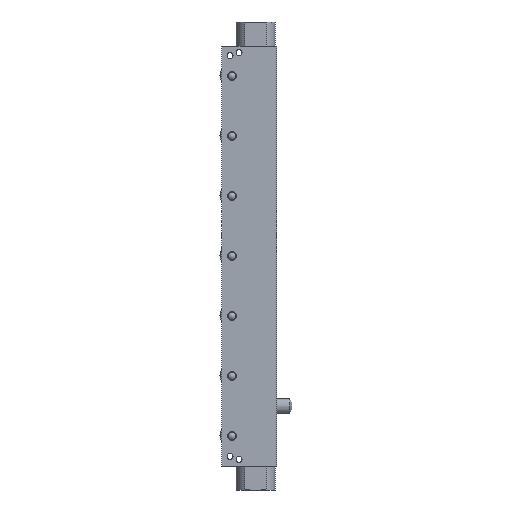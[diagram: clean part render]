
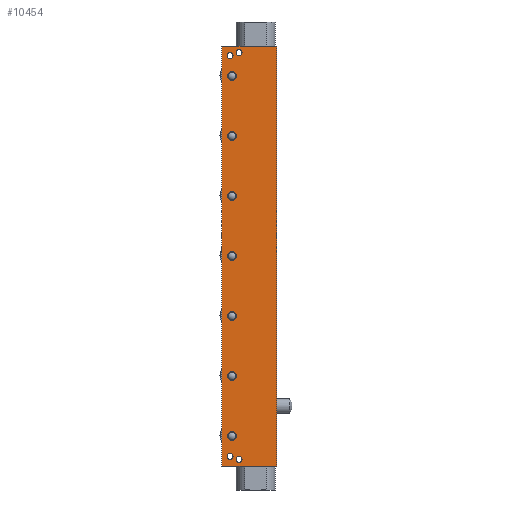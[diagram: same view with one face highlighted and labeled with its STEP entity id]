
A CAD part, left-side view. The second image highlights one B-rep face of the part: STEP entity #10454.
In plain terms, the highlighted planar face has unit normal (-1, 0, 0).
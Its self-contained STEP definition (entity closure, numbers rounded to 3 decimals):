
#245=FACE_BOUND('',#1443,.T.);
#246=FACE_BOUND('',#1444,.T.);
#247=FACE_BOUND('',#1445,.T.);
#248=FACE_BOUND('',#1446,.T.);
#249=FACE_BOUND('',#1447,.T.);
#250=FACE_BOUND('',#1448,.T.);
#251=FACE_BOUND('',#1449,.T.);
#252=FACE_BOUND('',#1450,.T.);
#253=FACE_BOUND('',#1451,.T.);
#254=FACE_BOUND('',#1452,.T.);
#255=FACE_BOUND('',#1453,.T.);
#563=PLANE('',#11426);
#872=FACE_OUTER_BOUND('',#1442,.T.);
#1442=EDGE_LOOP('',(#7556,#7557,#7558,#7559));
#1443=EDGE_LOOP('',(#7560));
#1444=EDGE_LOOP('',(#7561));
#1445=EDGE_LOOP('',(#7562));
#1446=EDGE_LOOP('',(#7563,#7564));
#1447=EDGE_LOOP('',(#7565,#7566));
#1448=EDGE_LOOP('',(#7567,#7568));
#1449=EDGE_LOOP('',(#7569,#7570));
#1450=EDGE_LOOP('',(#7571));
#1451=EDGE_LOOP('',(#7572));
#1452=EDGE_LOOP('',(#7573));
#1453=EDGE_LOOP('',(#7574));
#1992=LINE('',#16982,#2431);
#2003=LINE('',#17011,#2442);
#2073=LINE('',#18073,#2512);
#2074=LINE('',#18074,#2513);
#2431=VECTOR('',#13223,10.);
#2442=VECTOR('',#13242,10.);
#2512=VECTOR('',#13672,10.);
#2513=VECTOR('',#13673,10.);
#3187=CIRCLE('',#11423,3.);
#3190=CIRCLE('',#11427,3.);
#3191=CIRCLE('',#11428,3.);
#3192=CIRCLE('',#11429,3.);
#3193=CIRCLE('',#11430,2.);
#3194=CIRCLE('',#11431,2.);
#3195=CIRCLE('',#11432,2.);
#3196=CIRCLE('',#11433,2.);
#3197=CIRCLE('',#11434,2.);
#3198=CIRCLE('',#11435,2.);
#3199=CIRCLE('',#11436,2.);
#3200=CIRCLE('',#11437,2.);
#3201=CIRCLE('',#11438,3.);
#3202=CIRCLE('',#11439,3.);
#3203=CIRCLE('',#11440,3.);
#4071=VERTEX_POINT('',#16979);
#4072=VERTEX_POINT('',#16981);
#4085=VERTEX_POINT('',#17008);
#4086=VERTEX_POINT('',#17010);
#4252=VERTEX_POINT('',#18065);
#4255=VERTEX_POINT('',#18075);
#4256=VERTEX_POINT('',#18077);
#4257=VERTEX_POINT('',#18079);
#4258=VERTEX_POINT('',#18081);
#4259=VERTEX_POINT('',#18082);
#4260=VERTEX_POINT('',#18085);
#4261=VERTEX_POINT('',#18086);
#4262=VERTEX_POINT('',#18089);
#4263=VERTEX_POINT('',#18090);
#4264=VERTEX_POINT('',#18093);
#4265=VERTEX_POINT('',#18094);
#4266=VERTEX_POINT('',#18097);
#4267=VERTEX_POINT('',#18099);
#4268=VERTEX_POINT('',#18101);
#5260=EDGE_CURVE('',#4071,#4072,#1992,.T.);
#5274=EDGE_CURVE('',#4085,#4086,#2003,.T.);
#5525=EDGE_CURVE('',#4252,#4252,#3187,.T.);
#5529=EDGE_CURVE('',#4071,#4086,#2073,.T.);
#5530=EDGE_CURVE('',#4072,#4085,#2074,.T.);
#5531=EDGE_CURVE('',#4255,#4255,#3190,.T.);
#5532=EDGE_CURVE('',#4256,#4256,#3191,.T.);
#5533=EDGE_CURVE('',#4257,#4257,#3192,.T.);
#5534=EDGE_CURVE('',#4258,#4259,#3193,.T.);
#5535=EDGE_CURVE('',#4259,#4258,#3194,.T.);
#5536=EDGE_CURVE('',#4260,#4261,#3195,.T.);
#5537=EDGE_CURVE('',#4261,#4260,#3196,.T.);
#5538=EDGE_CURVE('',#4262,#4263,#3197,.T.);
#5539=EDGE_CURVE('',#4263,#4262,#3198,.T.);
#5540=EDGE_CURVE('',#4264,#4265,#3199,.T.);
#5541=EDGE_CURVE('',#4265,#4264,#3200,.T.);
#5542=EDGE_CURVE('',#4266,#4266,#3201,.T.);
#5543=EDGE_CURVE('',#4267,#4267,#3202,.T.);
#5544=EDGE_CURVE('',#4268,#4268,#3203,.T.);
#7556=ORIENTED_EDGE('',*,*,#5529,.T.);
#7557=ORIENTED_EDGE('',*,*,#5274,.F.);
#7558=ORIENTED_EDGE('',*,*,#5530,.F.);
#7559=ORIENTED_EDGE('',*,*,#5260,.F.);
#7560=ORIENTED_EDGE('',*,*,#5531,.F.);
#7561=ORIENTED_EDGE('',*,*,#5532,.F.);
#7562=ORIENTED_EDGE('',*,*,#5533,.F.);
#7563=ORIENTED_EDGE('',*,*,#5534,.T.);
#7564=ORIENTED_EDGE('',*,*,#5535,.T.);
#7565=ORIENTED_EDGE('',*,*,#5536,.T.);
#7566=ORIENTED_EDGE('',*,*,#5537,.T.);
#7567=ORIENTED_EDGE('',*,*,#5538,.T.);
#7568=ORIENTED_EDGE('',*,*,#5539,.T.);
#7569=ORIENTED_EDGE('',*,*,#5540,.T.);
#7570=ORIENTED_EDGE('',*,*,#5541,.T.);
#7571=ORIENTED_EDGE('',*,*,#5542,.F.);
#7572=ORIENTED_EDGE('',*,*,#5543,.F.);
#7573=ORIENTED_EDGE('',*,*,#5544,.F.);
#7574=ORIENTED_EDGE('',*,*,#5525,.F.);
#10454=ADVANCED_FACE('',(#872,#245,#246,#247,#248,#249,#250,#251,#252,#253,
#254,#255),#563,.T.);
#11423=AXIS2_PLACEMENT_3D('',#18066,#13663,#13664);
#11426=AXIS2_PLACEMENT_3D('',#18072,#13670,#13671);
#11427=AXIS2_PLACEMENT_3D('',#18076,#13674,#13675);
#11428=AXIS2_PLACEMENT_3D('',#18078,#13676,#13677);
#11429=AXIS2_PLACEMENT_3D('',#18080,#13678,#13679);
#11430=AXIS2_PLACEMENT_3D('',#18083,#13680,#13681);
#11431=AXIS2_PLACEMENT_3D('',#18084,#13682,#13683);
#11432=AXIS2_PLACEMENT_3D('',#18087,#13684,#13685);
#11433=AXIS2_PLACEMENT_3D('',#18088,#13686,#13687);
#11434=AXIS2_PLACEMENT_3D('',#18091,#13688,#13689);
#11435=AXIS2_PLACEMENT_3D('',#18092,#13690,#13691);
#11436=AXIS2_PLACEMENT_3D('',#18095,#13692,#13693);
#11437=AXIS2_PLACEMENT_3D('',#18096,#13694,#13695);
#11438=AXIS2_PLACEMENT_3D('',#18098,#13696,#13697);
#11439=AXIS2_PLACEMENT_3D('',#18100,#13698,#13699);
#11440=AXIS2_PLACEMENT_3D('',#18102,#13700,#13701);
#13223=DIRECTION('',(0.,-1.,0.));
#13242=DIRECTION('',(0.,1.,0.));
#13663=DIRECTION('center_axis',(-1.,0.,0.));
#13664=DIRECTION('ref_axis',(0.,0.,
-1.));
#13670=DIRECTION('center_axis',(-1.,0.,0.));
#13671=DIRECTION('ref_axis',(0.,1.,0.));
#13672=DIRECTION('',(0.,0.,-1.));
#13673=DIRECTION('',(0.,0.,-1.));
#13674=DIRECTION('center_axis',(-1.,0.,0.));
#13675=DIRECTION('ref_axis',(0.,0.,
-1.));
#13676=DIRECTION('center_axis',(-1.,0.,0.));
#13677=DIRECTION('ref_axis',(0.,0.,
-1.));
#13678=DIRECTION('center_axis',(-1.,0.,0.));
#13679=DIRECTION('ref_axis',(0.,0.,
-1.));
#13680=DIRECTION('center_axis',(1.,0.,0.));
#13681=DIRECTION('ref_axis',(0.,0.,
-1.));
#13682=DIRECTION('center_axis',(1.,0.,0.));
#13683=DIRECTION('ref_axis',(0.,0.,
-1.));
#13684=DIRECTION('center_axis',(1.,0.,0.));
#13685=DIRECTION('ref_axis',(0.,0.,
-1.));
#13686=DIRECTION('center_axis',(1.,0.,0.));
#13687=DIRECTION('ref_axis',(0.,0.,
-1.));
#13688=DIRECTION('center_axis',(1.,0.,0.));
#13689=DIRECTION('ref_axis',(0.,0.,
1.));
#13690=DIRECTION('center_axis',(1.,0.,0.));
#13691=DIRECTION('ref_axis',(0.,0.,
1.));
#13692=DIRECTION('center_axis',(1.,0.,0.));
#13693=DIRECTION('ref_axis',(0.,0.,
1.));
#13694=DIRECTION('center_axis',(1.,0.,0.));
#13695=DIRECTION('ref_axis',(0.,0.,
1.));
#13696=DIRECTION('center_axis',(-1.,0.,0.));
#13697=DIRECTION('ref_axis',(0.,0.,
-1.));
#13698=DIRECTION('center_axis',(-1.,0.,0.));
#13699=DIRECTION('ref_axis',(0.,0.,
-1.));
#13700=DIRECTION('center_axis',(-1.,0.,0.));
#13701=DIRECTION('ref_axis',(0.,0.,
-1.));
#16979=CARTESIAN_POINT('',(-10.9,18.25,140.));
#16981=CARTESIAN_POINT('',(-10.9,-18.25,140.));
#16982=CARTESIAN_POINT('',(-10.9,-18.25,140.));
#17008=CARTESIAN_POINT('',(-10.9,-18.25,-140.));
#17010=CARTESIAN_POINT('',(-10.9,18.25,-140.));
#17011=CARTESIAN_POINT('',(-10.9,-18.25,-140.));
#18065=CARTESIAN_POINT('',(-10.9,11.45,123.));
#18066=CARTESIAN_POINT('Origin',(-10.9,11.45,120.));
#18072=CARTESIAN_POINT('Origin',(-10.9,-18.25,0.));
#18073=CARTESIAN_POINT('',(-10.9,18.25,0.));
#18074=CARTESIAN_POINT('',(-10.9,-18.25,0.));
#18075=CARTESIAN_POINT('',(-10.9,11.45,83.));
#18076=CARTESIAN_POINT('Origin',(-10.9,11.45,80.));
#18077=CARTESIAN_POINT('',(-10.9,11.45,3.));
#18078=CARTESIAN_POINT('Origin',(-10.9,11.45,0.));
#18079=CARTESIAN_POINT('',(-10.9,11.45,-77.));
#18080=CARTESIAN_POINT('Origin',(-10.9,11.45,-80.));
#18081=CARTESIAN_POINT('',(-10.9,12.75,131.5));
#18082=CARTESIAN_POINT('',(-10.9,12.75,135.5));
#18083=CARTESIAN_POINT('Origin',(-10.9,12.75,133.5));
#18084=CARTESIAN_POINT('Origin',(-10.9,12.75,133.5));
#18085=CARTESIAN_POINT('',(-10.9,6.75,133.5));
#18086=CARTESIAN_POINT('',(-10.9,6.75,137.5));
#18087=CARTESIAN_POINT('Origin',(-10.9,6.75,135.5));
#18088=CARTESIAN_POINT('Origin',(-10.9,6.75,135.5));
#18089=CARTESIAN_POINT('',(-10.9,12.75,-131.5));
#18090=CARTESIAN_POINT('',(-10.9,12.75,-135.5));
#18091=CARTESIAN_POINT('Origin',(-10.9,12.75,-133.5));
#18092=CARTESIAN_POINT('Origin',(-10.9,12.75,-133.5));
#18093=CARTESIAN_POINT('',(-10.9,6.75,-133.5));
#18094=CARTESIAN_POINT('',(-10.9,6.75,-137.5));
#18095=CARTESIAN_POINT('Origin',(-10.9,6.75,-135.5));
#18096=CARTESIAN_POINT('Origin',(-10.9,6.75,-135.5));
#18097=CARTESIAN_POINT('',(-10.9,11.45,-117.));
#18098=CARTESIAN_POINT('Origin',(-10.9,11.45,-120.));
#18099=CARTESIAN_POINT('',(-10.9,11.45,-37.));
#18100=CARTESIAN_POINT('Origin',(-10.9,11.45,-40.));
#18101=CARTESIAN_POINT('',(-10.9,11.45,43.));
#18102=CARTESIAN_POINT('Origin',(-10.9,11.45,40.));
